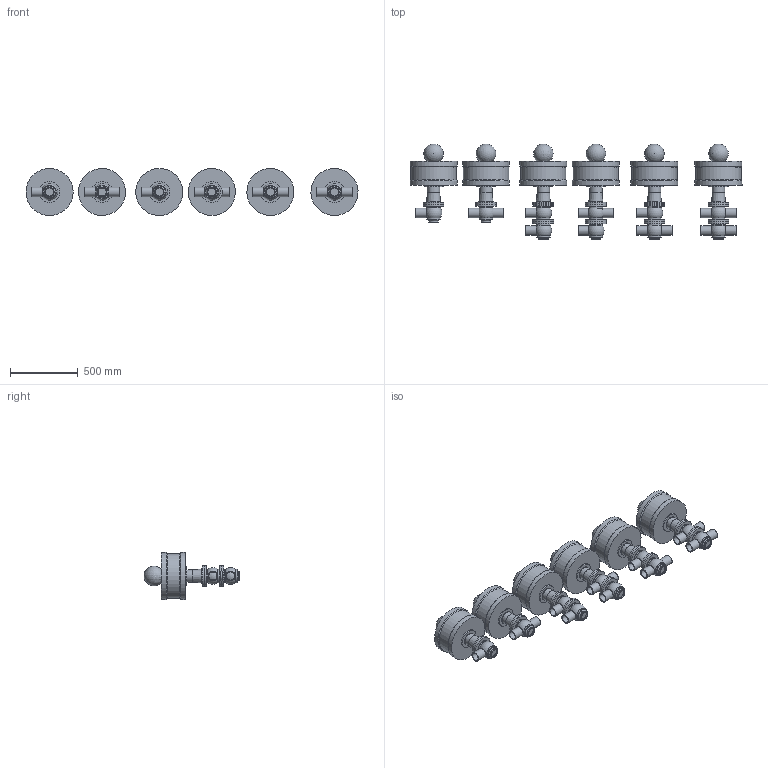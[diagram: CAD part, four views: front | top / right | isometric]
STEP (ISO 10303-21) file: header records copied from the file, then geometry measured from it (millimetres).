
FILE_DESCRIPTION(/* description */ (''),/* implementation_level */ '2;1');
FILE_NAME(/* name */ 'C:\Users\marz-m\Desktop\PDF\BBZQ 3D STEP\BBZQ-DN65-CIL.320.stp',/* time_stamp */ '2018-04-13T15:20:02+02:00',/* author */ ('marz-m'),/* organization */ (''),/* preprocessor_version */ 'ST-DEVELOPER v17',/* originating_system */ 'Autodesk Inventor 2018',/* authorisation */ '');
FILE_SCHEMA (('AUTOMOTIVE_DESIGN { 1 0 10303 214 3 1 1 }'));
Length unit declared in the file: millimetre
Products named in the file (8): BBZQ-DN65-CIL.320; ASSEMBL-CIL207--360-BBZQ-DN065; CILINDRO 320; SAGOMA-GIOTTO-; COR-INF-L-BBZQ-DN065-SALD; COR-SUP-L-BBZQ-DN065-SALD; COR-SUP-T-BBZQ-DN65; COR-INF-T-BBZQ-DN065-SALD
Assembly tree (28 placements, depth 2):
  BBZQ-DN65-CIL.320
    ASSEMBL-CIL207--360-BBZQ-DN065  x6
    COR-INF-L-BBZQ-DN065-SALD  x3
    COR-INF-T-BBZQ-DN065-SALD  x3
    COR-SUP-L-BBZQ-DN065-SALD  x2
    COR-SUP-T-BBZQ-DN65  x2
    CILINDRO 320  x6
    SAGOMA-GIOTTO-  x6
Bounding box: 2453.35 x 708.97 x 348 mm (x, y, z)
Volume: 125805315.5 mm3; surface area: 4871867.3 mm2
Topology: 28 solids, 28 shells, 368 faces, 892 edges, 654 vertices
Faces by surface type: cylinder 142, plane 115, torus 44, cone 36, sphere 31
Full cylindrical faces by diameter (mm): 25.4 x6, 60 x21, 68 x6, 69.8 x6, 70 x27, 80 x6, 92 x6, 99 x12, 101 x8, 141 x6, 154 x20, 334 x6, 348 x12
Entity records: 3656 total; most frequent: DIRECTION 720, CARTESIAN_POINT 565, ORIENTED_EDGE 488, AXIS2_PLACEMENT_3D 336, EDGE_CURVE 244, CIRCLE 196, VERTEX_POINT 181, EDGE_LOOP 133
